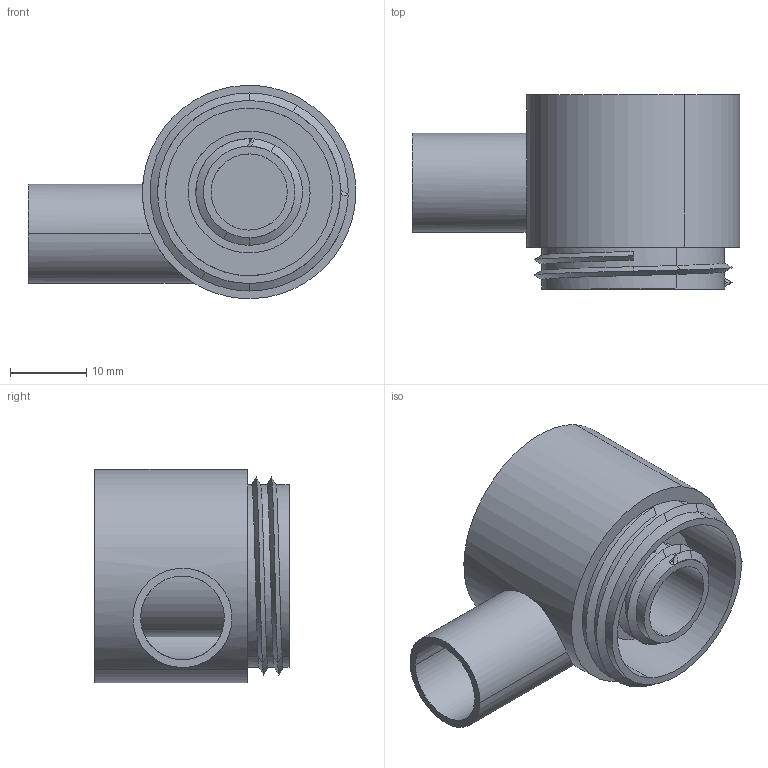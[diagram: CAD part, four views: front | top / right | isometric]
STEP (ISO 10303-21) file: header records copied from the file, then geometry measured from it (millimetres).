
FILE_DESCRIPTION(/* description */ (''),/* implementation_level */ '2;1');
FILE_NAME(/* name */ 'sortie2.stp',/* time_stamp */ '2018-01-29T13:22:26+01:00',/* author */ (''),/* organization */ (''),/* preprocessor_version */ 'ST-DEVELOPER v16',/* originating_system */ 'SIEMENS PLM Software NX 11.0',/* authorisation */ '');
FILE_SCHEMA (('AUTOMOTIVE_DESIGN { 1 0 10303 214 3 1 1 1 }'));
Length unit declared in the file: millimetre
Products named in the file (2): PartBody_id9_x_t; type2_x_t
Assembly tree (1 placements, depth 2):
  type2_x_t
    PartBody_id9_x_t
Bounding box: 43 x 25.5 x 27.97 mm (x, y, z)
Volume: 10186.8 mm3; surface area: 7635.7 mm2
Topology: 1 solids, 1 shells, 75 faces, 178 edges, 109 vertices
Faces by surface type: bspline 40, cylinder 26, plane 9
Entity records: 4828 total; most frequent: CARTESIAN_POINT 3549, ORIENTED_EDGE 350, EDGE_CURVE 175, B_SPLINE_CURVE_WITH_KNOTS 175, VERTEX_POINT 108, EDGE_LOOP 81, ADVANCED_FACE 74, DIRECTION 74
